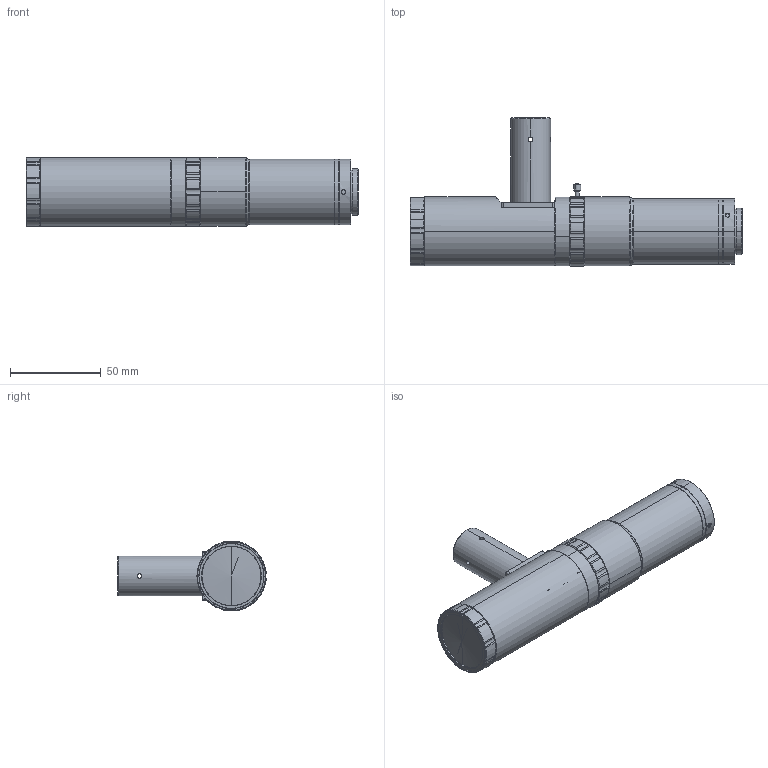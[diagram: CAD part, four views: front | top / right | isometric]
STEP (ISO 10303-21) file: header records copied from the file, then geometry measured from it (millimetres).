
FILE_DESCRIPTION (( 'STEP AP203' ), '1' );
FILE_NAME ('DTCA121-10C-G.STEP', '2024-04-15T07:33:01', ( '' ), ( '' ), 'SwSTEP 2.0', 'SolidWorks 2017', '' );
FILE_SCHEMA (( 'CONFIG_CONTROL_DESIGN' ));
Length unit declared in the file: millimetre
Products named in the file (1): DTCA121-10C-G
Bounding box: 182.85 x 81.78 x 38.5 mm (x, y, z)
Volume: 210548.2 mm3; surface area: 31334.4 mm2
Topology: 1 solids, 3 shells, 351 faces, 916 edges, 581 vertices
Faces by surface type: cylinder 186, cone 101, plane 58, bspline 6
Entity records: 12282 total; most frequent: CARTESIAN_POINT 3936, ORIENTED_EDGE 1814, DIRECTION 1634, EDGE_CURVE 907, AXIS2_PLACEMENT_3D 664, VERTEX_POINT 580, EDGE_LOOP 381, ADVANCED_FACE 351
